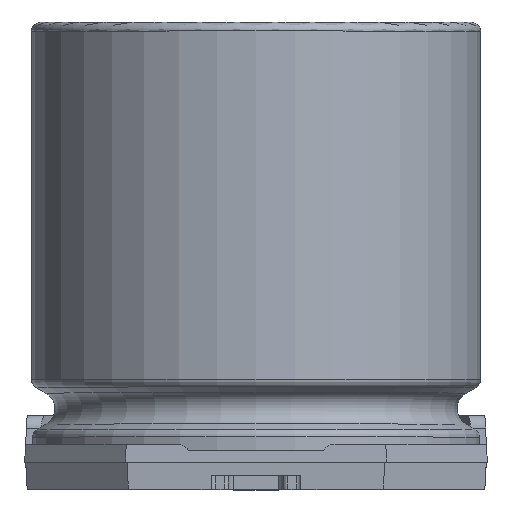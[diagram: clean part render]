
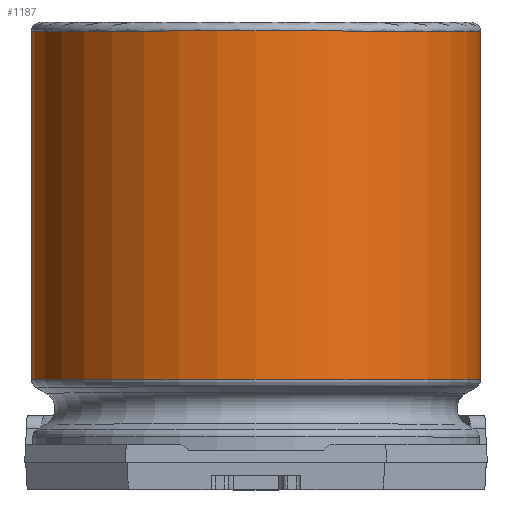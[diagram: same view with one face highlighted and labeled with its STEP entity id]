
A CAD part, top view. The second image highlights one B-rep face of the part: STEP entity #1187.
In plain terms, the highlighted cylindrical face has radius 5 mm (diameter 10 mm), a full revolution.
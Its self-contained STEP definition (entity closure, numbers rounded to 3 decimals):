
#94 = ORIENTED_EDGE ( 'NONE', *, *, #1920, .T. ) ;
#104 = EDGE_CURVE ( 'NONE', #4502, #4502, #3427, .T. ) ;
#245 = CARTESIAN_POINT ( 'NONE',  ( 0., 9.6, 0. ) ) ;
#443 = EDGE_LOOP ( 'NONE', ( #1990 ) ) ;
#1187 = ADVANCED_FACE ( 'NONE', ( #4644, #1733 ), #3193, .T. ) ;
#1412 = EDGE_LOOP ( 'NONE', ( #94 ) ) ;
#1733 = FACE_OUTER_BOUND ( 'NONE', #443, .T. ) ;
#1737 = DIRECTION ( 'NONE',  ( 0., -1., 0. ) ) ;
#1777 = AXIS2_PLACEMENT_3D ( 'NONE', #3916, #2819, #2443 ) ;
#1785 = CIRCLE ( 'NONE', #3472, 5. ) ;
#1920 = EDGE_CURVE ( 'NONE', #4151, #4151, #1785, .T. ) ;
#1943 = CARTESIAN_POINT ( 'NONE',  ( 0., 1.85, 0. ) ) ;
#1959 = AXIS2_PLACEMENT_3D ( 'NONE', #1943, #3781, #4530 ) ;
#1990 = ORIENTED_EDGE ( 'NONE', *, *, #104, .F. ) ;
#2289 = CARTESIAN_POINT ( 'NONE',  ( 0., 1.85, -5. ) ) ;
#2443 = DIRECTION ( 'NONE',  ( 0., 0., -1. ) ) ;
#2819 = DIRECTION ( 'NONE',  ( 0., -1., 0. ) ) ;
#3193 = CYLINDRICAL_SURFACE ( 'NONE', #1777, 5. ) ;
#3219 = DIRECTION ( 'NONE',  ( 0., 0., -1. ) ) ;
#3427 = CIRCLE ( 'NONE', #1959, 5. ) ;
#3472 = AXIS2_PLACEMENT_3D ( 'NONE', #245, #1737, #3219 ) ;
#3732 = CARTESIAN_POINT ( 'NONE',  ( 0., 9.6, -5. ) ) ;
#3781 = DIRECTION ( 'NONE',  ( 0., -1., 0. ) ) ;
#3916 = CARTESIAN_POINT ( 'NONE',  ( 0., 0., 0. ) ) ;
#4151 = VERTEX_POINT ( 'NONE', #3732 ) ;
#4502 = VERTEX_POINT ( 'NONE', #2289 ) ;
#4530 = DIRECTION ( 'NONE',  ( 0., 0., -1. ) ) ;
#4644 = FACE_OUTER_BOUND ( 'NONE', #1412, .T. ) ;
